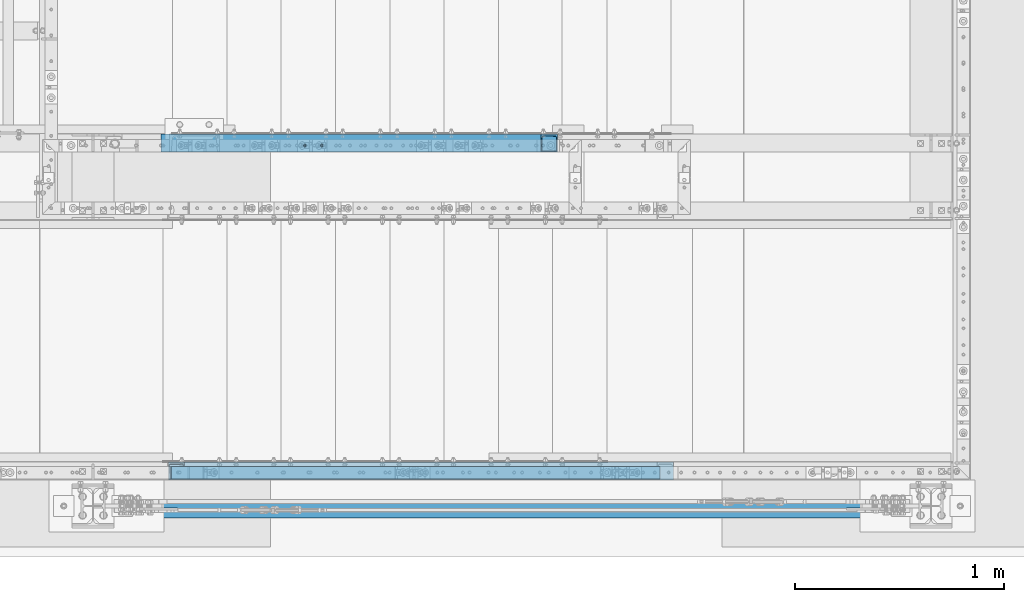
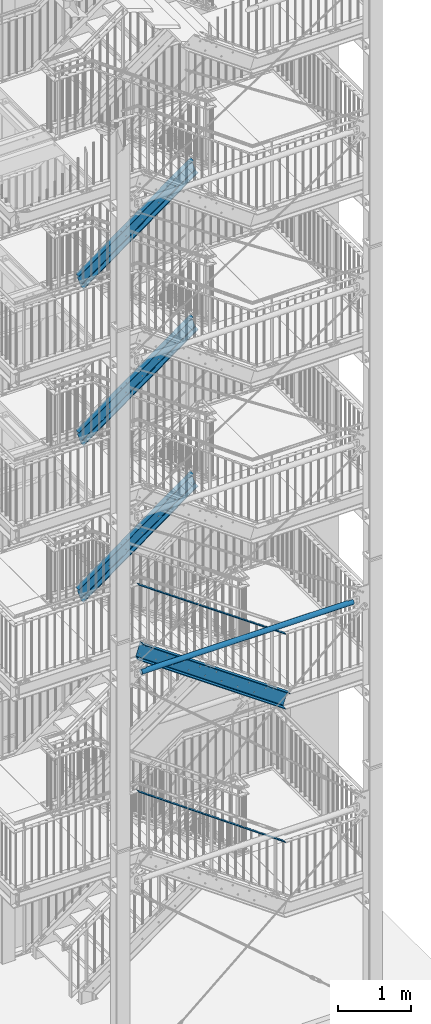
# One storey, part 119 of 825: 6 members, 1 beam, 66 openings.
"""IFC2X3 building model written with IfcOpenShell, lengths in millimetres."""

import ifcopenshell
import ifcopenshell.guid

model = None  # the IFC model being written
_history = None  # IfcOwnerHistory: only IFC2X3 demands one
_inside = {}  # id of a spatial element -> (the spatial element, [elements in it])
_under = {}  # id of a project, library or spatial element -> (it, [spatial elements below it])
_declared = {}  # id of a project -> (the project, [libraries it declares])
_typed = {}  # id of a type object -> (the type object, [elements of that type])
_made_of = {}  # id of a material, layer set ... -> (it, [elements and type objects made of it])


def new_model(schema):
    """Start an empty IFC model of exactly this schema.

    Asked for "IFC4X3", IfcOpenShell would pick the latest addendum, in which some entities
    have other attributes; the version numbers below select the first issue.
    IFC2X3 requires an IfcOwnerHistory on every rooted entity: one is made here for all.
    """
    global model, _history
    if schema == "IFC4X3":
        model = ifcopenshell.file(schema_version=(4, 3, 0, 0))
    else:
        model = ifcopenshell.file(schema=schema)
    _inside.clear()
    _under.clear()
    _declared.clear()
    _typed.clear()
    _made_of.clear()
    _history = None
    if model.schema == "IFC2X3":
        org = make("IfcOrganization", Name="unknown")
        user = make(
            "IfcPersonAndOrganization",
            ThePerson=make("IfcPerson", FamilyName="unknown"),
            TheOrganization=org,
        )
        app = make(
            "IfcApplication",
            ApplicationDeveloper=org,
            Version="unknown",
            ApplicationFullName="unknown",
            ApplicationIdentifier="unknown",
        )
        _history = make(
            "IfcOwnerHistory",
            OwningUser=user,
            OwningApplication=app,
            ChangeAction="ADDED",
            CreationDate=0,
        )
    return model


def make(cls, **values):
    """One entity of the class cls with the attributes given. An attribute that is None is left unset."""
    return model.create_entity(
        cls, **{name: value for name, value in values.items() if value is not None}
    )


def entity(cls, *values):
    """Any entity or typed value of the class cls, its attributes in the order of the schema. None: left unset."""
    e = model.create_entity(cls)
    for i, value in enumerate(values):
        if value is not None:
            e[i] = value
    return e


def rooted(cls, **values):
    """An entity with a GlobalId (a new one), such as an element, a storey or a relation."""
    return make(cls, GlobalId=ifcopenshell.guid.new(), OwnerHistory=_history, **values)


def si_unit(unit_type, name, prefix=None):
    """IfcSIUnit, for example si_unit("LENGTHUNIT", "METRE", prefix="MILLI")."""
    return make("IfcSIUnit", UnitType=unit_type, Prefix=prefix, Name=name)


def converted_unit(unit_type, name, factor, base, dimensions=None, offset=None):
    """IfcConversionBasedUnit, such as the inch: factor (a typed value) times the base unit."""
    return make(
        "IfcConversionBasedUnit"
        if offset is None
        else "IfcConversionBasedUnitWithOffset",
        ConversionOffset=offset,
        Dimensions=None
        if dimensions is None
        else entity("IfcDimensionalExponents", *dimensions),
        UnitType=unit_type,
        Name=name,
        ConversionFactor=make(
            "IfcMeasureWithUnit", ValueComponent=factor, UnitComponent=base
        ),
    )


def assignment(units):
    """IfcUnitAssignment: the units of a project."""
    return None if units is None else make("IfcUnitAssignment", Units=units)


def point(xyz):
    """IfcCartesianPoint."""
    return None if xyz is None else make("IfcCartesianPoint", Coordinates=xyz)


def direction(xyz):
    """IfcDirection."""
    return None if xyz is None else make("IfcDirection", DirectionRatios=xyz)


def frame(location, z_axis=None, x_axis=None):
    """IfcAxis2Placement3D, a coordinate frame: its origin and axes. An axis left out is left unset."""
    return make(
        "IfcAxis2Placement3D",
        Location=point(location),
        Axis=direction(z_axis),
        RefDirection=direction(x_axis),
    )


def frame_2d(location, x_axis=None):
    """IfcAxis2Placement2D, a coordinate frame in the plane: its origin and x axis."""
    return make(
        "IfcAxis2Placement2D", Location=point(location), RefDirection=direction(x_axis)
    )


def origin():
    """The frame at (0, 0, 0) with its axes left unset."""
    return frame((0.0, 0.0, 0.0))


def origin_with_axes():
    """The frame at (0, 0, 0) with the z axis (0, 0, 1) and the x axis (1, 0, 0) written out."""
    return frame((0.0, 0.0, 0.0), z_axis=(0.0, 0.0, 1.0), x_axis=(1.0, 0.0, 0.0))


def origin_2d():
    """The frame at (0, 0) in the plane with its x axis left unset."""
    return frame_2d((0.0, 0.0))


def origin_2d_with_axis():
    """The frame at (0, 0) in the plane with the x axis (1, 0) written out."""
    return frame_2d((0.0, 0.0), x_axis=(1.0, 0.0))


def place(relative_to, where):
    """IfcLocalPlacement: puts the frame where relative to a parent placement (None: the world)."""
    return make(
        "IfcLocalPlacement", PlacementRelTo=relative_to, RelativePlacement=where
    )


def context(
    kind, dimensions, precision=None, world=None, true_north=None, identifier=None
):
    """IfcGeometricRepresentationContext, for example the 3D "Model" context."""
    return make(
        "IfcGeometricRepresentationContext",
        ContextIdentifier=identifier,
        ContextType=kind,
        CoordinateSpaceDimension=dimensions,
        Precision=precision,
        WorldCoordinateSystem=world,
        TrueNorth=true_north,
    )


def project(units=None, contexts=None):
    """IfcProject with its units and contexts."""
    return rooted(
        "IfcProject",
        Name="project",
        RepresentationContexts=contexts,
        UnitsInContext=assignment(units),
    )


def spatial(cls, under=None, at=None, **own):
    """A site, building, storey or space (cls), placed at a placement, below another one or the project."""
    s = rooted(cls, ObjectPlacement=at, **own)
    if under is not None:
        _under.setdefault(under.id(), (under, []))[1].append(s)
    return s


def polyline(points):
    """IfcPolyline through the points."""
    return make("IfcPolyline", Points=[point(p) for p in points])


def profile(cls, at=None, kind="AREA", **sizes):
    """A parametric profile (cls). Its sizes go by their IFC names, for example OverallWidth=200.0."""
    return make(cls, ProfileType=kind, Position=at, **sizes)


def rectangle(**sizes):
    """IfcRectangleProfileDef."""
    return profile("IfcRectangleProfileDef", **sizes)


def circle(**sizes):
    """IfcCircleProfileDef."""
    return profile("IfcCircleProfileDef", **sizes)


def hollow_circle(**sizes):
    """IfcCircleHollowProfileDef."""
    return profile("IfcCircleHollowProfileDef", **sizes)


def u_section(**sizes):
    """IfcUShapeProfileDef."""
    return profile("IfcUShapeProfileDef", **sizes)


def outline(outer, holes=None, kind="AREA"):
    """IfcArbitraryClosedProfileDef: a profile drawn as a closed curve; with holes, ...WithVoids."""
    if holes is None:
        return make("IfcArbitraryClosedProfileDef", ProfileType=kind, OuterCurve=outer)
    return make(
        "IfcArbitraryProfileDefWithVoids",
        ProfileType=kind,
        OuterCurve=outer,
        InnerCurves=holes,
    )


def extrude(swept, where, along, depth):
    """IfcExtrudedAreaSolid: the profile swept, set in the frame where, extruded along a direction by depth."""
    return make(
        "IfcExtrudedAreaSolid",
        SweptArea=swept,
        Position=where,
        ExtrudedDirection=direction(along),
        Depth=depth,
    )


def clip(a, b, op="DIFFERENCE"):
    """IfcBooleanClippingResult: the solid a cut by the half space b."""
    return make(
        "IfcBooleanClippingResult", Operator=op, FirstOperand=a, SecondOperand=b
    )


def halfspace(plane, agree):
    """IfcHalfSpaceSolid: all space on one side of the plane z = 0 of the frame plane."""
    return make(
        "IfcHalfSpaceSolid",
        BaseSurface=make("IfcPlane", Position=plane),
        AgreementFlag=agree,
    )


def shape(context_of_items, identifier, shape_type, items):
    """IfcShapeRepresentation: the items that make up one representation, for example the "Body"."""
    return make(
        "IfcShapeRepresentation",
        ContextOfItems=context_of_items,
        RepresentationIdentifier=identifier,
        RepresentationType=shape_type,
        Items=items,
    )


def material(Name=None, Category=None):
    """IfcMaterial."""
    return make("IfcMaterial", Name=Name, Category=Category)


def made_of(thing, what):
    """Note that an element or type object is made of a material, layer set ...; save() writes the relation."""
    if what is not None:
        _made_of.setdefault(what.id(), (what, []))[1].append(thing)
    return thing


def element(
    cls,
    number,
    at=None,
    inside=None,
    cuts=None,
    type_object=None,
    material=None,
    context=None,
    identifier="Body",
    shape_type=None,
    held_by="IfcProductDefinitionShape",
    body=None,
    shapes=None,
    **own,
):
    """One element of the class cls, such as IfcWall. Its Tag is "e" and its number.

    at: its placement. inside: the storey or other place that contains it. cuts: it is an
    opening in that element (IfcRelVoidsElement). A single representation is given by context,
    identifier, shape_type and body (its items); several are given by shapes. held_by: the class
    of the entity that holds the representations. save() writes the other relations.
    """
    e = rooted(cls, Tag="e%d" % number, ObjectPlacement=at, **own)
    if body is not None:
        shapes = [shape(context, identifier, shape_type, body)]
    if shapes is not None:
        e.Representation = make(held_by, Representations=shapes)
    if inside is not None:
        _inside.setdefault(inside.id(), (inside, []))[1].append(e)
    if cuts is not None:
        rooted(
            "IfcRelVoidsElement", RelatingBuildingElement=cuts, RelatedOpeningElement=e
        )
    if type_object is not None:
        _typed.setdefault(type_object.id(), (type_object, []))[1].append(e)
    return made_of(e, material)


def aggregate(whole, parts):
    """IfcRelAggregates: a whole, such as a stair, and the parts it consists of."""
    return rooted("IfcRelAggregates", RelatingObject=whole, RelatedObjects=parts)


def save(model, path):
    """Write the relations noted so far, then the file.

    IfcRelAggregates (storeys below a building ...), IfcRelContainedInSpatialStructure (elements
    in a storey), IfcRelDefinesByType, IfcRelAssociatesMaterial and IfcRelDeclares: one each for
    every whole, place, type object, material and project.
    """
    for whole, parts in _under.values():
        aggregate(whole, parts)
    for where, things in _inside.values():
        rooted(
            "IfcRelContainedInSpatialStructure",
            RelatedElements=things,
            RelatingStructure=where,
        )
    for kind, things in _typed.values():
        rooted("IfcRelDefinesByType", RelatedObjects=things, RelatingType=kind)
    for what, things in _made_of.values():
        rooted("IfcRelAssociatesMaterial", RelatedObjects=things, RelatingMaterial=what)
    for by, libraries in _declared.values():
        rooted("IfcRelDeclares", RelatingContext=by, RelatedDefinitions=libraries)
    model.write(path)


model = new_model("IFC2X3")

# Units and contexts
model_context = context("Model", 3, precision=1e-09, world=origin_with_axes())
ifc_project = project(units=[si_unit("LENGTHUNIT", "METRE", prefix="MILLI"), si_unit("AREAUNIT", "SQUARE_METRE"), si_unit("VOLUMEUNIT", "CUBIC_METRE"), converted_unit("PLANEANGLEUNIT", "DEGREE", entity("IfcPlaneAngleMeasure", 0.01745329), si_unit("PLANEANGLEUNIT", "RADIAN"), dimensions=[0, 0, 0, 0, 0, 0, 0])], contexts=[model_context])

# Site, building, storey
site_placement = place(None, origin_with_axes())
site = spatial("IfcSite", under=ifc_project, at=site_placement, Name="Cnopf'sche Kinderklinik", CompositionType="ELEMENT")
building_placement = place(site_placement, origin_with_axes())
building = spatial("IfcBuilding", under=site, at=building_placement, Name="Struktur 1", CompositionType="ELEMENT")
storey_placement = place(building_placement, origin_with_axes())
storey = spatial("IfcBuildingStorey", under=building, at=storey_placement, Name="Default Storey", CompositionType="ELEMENT", Elevation=0.0)

# Member, openings
ifc_material = material(Name="S235JR")
member_1_placement = place(None, frame((5040.769761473, 6124.436971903, 9702.599256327), z_axis=(-0.810878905, 0.0, -0.585213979), x_axis=(0.0, -1.0, 0.0)))
member_1 = element("IfcMember", 1, at=member_1_placement, inside=storey, material=ifc_material, Name="Stringer#2", ObjectType="Stringer#2", context=model_context, shape_type="Clipping", body=[
    clip(clip(extrude(u_section(Depth=240.0, FlangeWidth=85.0, WebThickness=9.5, FlangeThickness=13.0, FilletRadius=13.0, EdgeRadius=6.5, FlangeSlope=4.574, at=frame_2d((20.2, 0.0))), origin(), (0.0, 0.0, -1.0), 2764.271887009), halfspace(frame((6124.436971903, -8031.601758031, 129.944247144), z_axis=(0.0, 0.307506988, 0.951545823), x_axis=(1.0, 0.0, 0.0)), True)), halfspace(frame((6124.436971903, -7374.852372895, 2162.18142843), z_axis=(0.0, -0.307506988, -0.951545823), x_axis=(-1.0, 0.0, 0.0)), True)),
])
opening_1_placement = place(member_1_placement, frame((-22.8, -50.419344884, -791.0398607), z_axis=(1.0, 0.0, 0.0), x_axis=(0.0, -0.585213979, -0.810878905)))
element("IfcOpeningElement", 2, at=opening_1_placement, cuts=member_1, ObjectType="Opening", context=model_context, shape_type="SweptSolid", body=[
    extrude(circle(Radius=7.001, at=origin_2d_with_axis()), origin(), (0.0, 0.0, 1.0), 10.5),
])
opening_2_placement = place(member_1_placement, frame((-22.8, -50.419345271, -2394.23855254), z_axis=(1.0, 0.0, 0.0), x_axis=(0.0, -0.585213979, -0.810878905)))
element("IfcOpeningElement", 3, at=opening_2_placement, cuts=member_1, ObjectType="Opening", context=model_context, shape_type="SweptSolid", body=[
    extrude(circle(Radius=7.001, at=origin_2d_with_axis()), origin(), (0.0, 0.0, 1.0), 10.5),
])
opening_3_placement = place(member_1_placement, frame((-22.8, 54.919171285, -965.721396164), z_axis=(1.0, 0.0, 0.0), x_axis=(0.0, -0.585213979, -0.810878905)))
element("IfcOpeningElement", 4, at=opening_3_placement, cuts=member_1, ObjectType="Opening", context=model_context, shape_type="SweptSolid", body=[
    extrude(circle(Radius=7.001, at=origin_2d_with_axis()), origin(), (0.0, 0.0, 1.0), 10.5),
])
opening_4_placement = place(member_1_placement, frame((-22.8, -50.419345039, -1432.319337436), z_axis=(1.0, 0.0, 0.0), x_axis=(0.0, -0.585213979, -0.810878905)))
element("IfcOpeningElement", 5, at=opening_4_placement, cuts=member_1, ObjectType="Opening", context=model_context, shape_type="SweptSolid", body=[
    extrude(circle(Radius=7.001, at=origin_2d_with_axis()), origin(), (0.0, 0.0, 1.0), 10.5),
])
opening_5_placement = place(member_1_placement, frame((-22.8, 54.919170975, -2248.280349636), z_axis=(1.0, 0.0, 0.0), x_axis=(0.0, -0.585213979, -0.810878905)))
element("IfcOpeningElement", 6, at=opening_5_placement, cuts=member_1, ObjectType="Opening", context=model_context, shape_type="SweptSolid", body=[
    extrude(circle(Radius=7.001, at=origin_2d_with_axis()), origin(), (0.0, 0.0, 1.0), 10.5),
])
opening_6_placement = place(member_1_placement, frame((-22.8, -50.419345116, -1752.959075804), z_axis=(1.0, 0.0, 0.0), x_axis=(0.0, -0.585213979, -0.810878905)))
element("IfcOpeningElement", 7, at=opening_6_placement, cuts=member_1, ObjectType="Opening", context=model_context, shape_type="SweptSolid", body=[
    extrude(circle(Radius=7.001, at=origin_2d_with_axis()), origin(), (0.0, 0.0, 1.0), 10.5),
])
opening_7_placement = place(member_1_placement, frame((-22.8, 54.919171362, -645.081657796), z_axis=(1.0, 0.0, 0.0), x_axis=(0.0, -0.585213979, -0.810878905)))
element("IfcOpeningElement", 8, at=opening_7_placement, cuts=member_1, ObjectType="Opening", context=model_context, shape_type="SweptSolid", body=[
    extrude(circle(Radius=7.001, at=origin_2d_with_axis()), origin(), (0.0, 0.0, 1.0), 10.5),
])
opening_8_placement = place(member_1_placement, frame((-22.8, -50.419345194, -2073.598814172), z_axis=(1.0, 0.0, 0.0), x_axis=(0.0, -0.585213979, -0.810878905)))
element("IfcOpeningElement", 9, at=opening_8_placement, cuts=member_1, ObjectType="Opening", context=model_context, shape_type="SweptSolid", body=[
    extrude(circle(Radius=7.001, at=origin_2d_with_axis()), origin(), (0.0, 0.0, 1.0), 10.5),
])
opening_9_placement = place(member_1_placement, frame((-22.8, 54.919171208, -1286.361134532), z_axis=(1.0, 0.0, 0.0), x_axis=(0.0, -0.585213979, -0.810878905)))
element("IfcOpeningElement", 10, at=opening_9_placement, cuts=member_1, ObjectType="Opening", context=model_context, shape_type="SweptSolid", body=[
    extrude(circle(Radius=7.001, at=origin_2d_with_axis()), origin(), (0.0, 0.0, 1.0), 10.5),
])
opening_10_placement = place(member_1_placement, frame((-22.8, 54.919171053, -1927.640611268), z_axis=(1.0, 0.0, 0.0), x_axis=(0.0, -0.585213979, -0.810878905)))
element("IfcOpeningElement", 11, at=opening_10_placement, cuts=member_1, ObjectType="Opening", context=model_context, shape_type="SweptSolid", body=[
    extrude(circle(Radius=7.001, at=origin_2d_with_axis()), origin(), (0.0, 0.0, 1.0), 10.5),
])
opening_11_placement = place(member_1_placement, frame((-22.8, 54.91917113, -1607.0008729), z_axis=(1.0, 0.0, 0.0), x_axis=(0.0, -0.585213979, -0.810878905)))
element("IfcOpeningElement", 12, at=opening_11_placement, cuts=member_1, ObjectType="Opening", context=model_context, shape_type="SweptSolid", body=[
    extrude(circle(Radius=7.001, at=origin_2d_with_axis()), origin(), (0.0, 0.0, 1.0), 10.5),
])
opening_12_placement = place(member_1_placement, frame((-22.8, -50.419344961, -1111.679599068), z_axis=(1.0, 0.0, 0.0), x_axis=(0.0, -0.585213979, -0.810878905)))
element("IfcOpeningElement", 13, at=opening_12_placement, cuts=member_1, ObjectType="Opening", context=model_context, shape_type="SweptSolid", body=[
    extrude(circle(Radius=7.001, at=origin_2d_with_axis()), origin(), (0.0, 0.0, 1.0), 10.5),
])
opening_13_placement = place(member_1_placement, frame((32.7, 120.5, -1202.687748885), z_axis=(0.0, 1.0, 0.0), x_axis=(-1.0, 0.0, 0.0)))
element("IfcOpeningElement", 14, at=opening_13_placement, cuts=member_1, ObjectType="Opening", context=model_context, shape_type="SweptSolid", body=[
    extrude(circle(Radius=7.001, at=frame_2d((0.0, -7.001), x_axis=(1.0, 0.0))), origin(), (0.0, 0.0, -1.0), 14.0),
])
opening_14_placement = place(member_1_placement, frame((32.7, 120.5, -1102.687748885), z_axis=(0.0, 1.0, 0.0), x_axis=(-1.0, 0.0, 0.0)))
element("IfcOpeningElement", 15, at=opening_14_placement, cuts=member_1, ObjectType="Opening", context=model_context, shape_type="SweptSolid", body=[
    extrude(circle(Radius=7.001, at=frame_2d((0.0, -7.001), x_axis=(1.0, 0.0))), origin(), (0.0, 0.0, -1.0), 14.0),
])

member_2_placement = place(None, frame((5041.069476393, 6124.436971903, 7070.450295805), z_axis=(-0.810350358, 0.0, -0.585945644), x_axis=(0.0, -1.0, 0.0)))
member_2 = element("IfcMember", 16, at=member_2_placement, inside=storey, material=ifc_material, Name="Stringer#2", ObjectType="Stringer#2", context=model_context, shape_type="Clipping", body=[
    clip(clip(extrude(u_section(Depth=240.0, FlangeWidth=85.0, WebThickness=9.5, FlangeThickness=13.0, FilletRadius=13.0, EdgeRadius=6.5, FlangeSlope=4.574, at=frame_2d((20.2, 0.0))), origin(), (0.0, 0.0, -1.0), 2765.811710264), halfspace(frame((6124.436971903, -5645.874307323, -639.66863089), z_axis=(0.0, 0.307936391, 0.951406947), x_axis=(1.0, 0.0, 0.0)), True)), halfspace(frame((6124.436971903, -4987.874923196, 1393.300525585), z_axis=(0.0, -0.307936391, -0.951406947), x_axis=(-1.0, 0.0, 0.0)), True)),
])
opening_15_placement = place(member_2_placement, frame((-22.8, -50.547583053, -791.047704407), z_axis=(1.0, 0.0, 0.0), x_axis=(0.0, -0.585945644, -0.810350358)))
element("IfcOpeningElement", 17, at=opening_15_placement, cuts=member_2, ObjectType="Opening", context=model_context, shape_type="SweptSolid", body=[
    extrude(circle(Radius=7.001, at=origin_2d_with_axis()), origin(), (0.0, 0.0, 1.0), 10.5),
])
opening_16_placement = place(member_2_placement, frame((-22.8, -50.547583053, -1432.745452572), z_axis=(1.0, 0.0, 0.0), x_axis=(0.0, -0.585945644, -0.810350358)))
element("IfcOpeningElement", 18, at=opening_16_placement, cuts=member_2, ObjectType="Opening", context=model_context, shape_type="SweptSolid", body=[
    extrude(circle(Radius=7.001, at=origin_2d_with_axis()), origin(), (0.0, 0.0, 1.0), 10.5),
])
opening_17_placement = place(member_2_placement, frame((-22.8, 54.922632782, -966.033514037), z_axis=(1.0, 0.0, 0.0), x_axis=(0.0, -0.585945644, -0.810350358)))
element("IfcOpeningElement", 19, at=opening_17_placement, cuts=member_2, ObjectType="Opening", context=model_context, shape_type="SweptSolid", body=[
    extrude(circle(Radius=7.001, at=origin_2d_with_axis()), origin(), (0.0, 0.0, 1.0), 10.5),
])
opening_18_placement = place(member_2_placement, frame((-22.8, 54.922632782, -1607.731262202), z_axis=(1.0, 0.0, 0.0), x_axis=(0.0, -0.585945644, -0.810350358)))
element("IfcOpeningElement", 20, at=opening_18_placement, cuts=member_2, ObjectType="Opening", context=model_context, shape_type="SweptSolid", body=[
    extrude(circle(Radius=7.001, at=origin_2d_with_axis()), origin(), (0.0, 0.0, 1.0), 10.5),
])
opening_19_placement = place(member_2_placement, frame((-22.8, 54.922632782, -1928.580136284), z_axis=(1.0, 0.0, 0.0), x_axis=(0.0, -0.585945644, -0.810350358)))
element("IfcOpeningElement", 21, at=opening_19_placement, cuts=member_2, ObjectType="Opening", context=model_context, shape_type="SweptSolid", body=[
    extrude(circle(Radius=7.001, at=origin_2d_with_axis()), origin(), (0.0, 0.0, 1.0), 10.5),
])
opening_20_placement = place(member_2_placement, frame((-22.8, -50.547583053, -2395.29207482), z_axis=(1.0, 0.0, 0.0), x_axis=(0.0, -0.585945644, -0.810350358)))
element("IfcOpeningElement", 22, at=opening_20_placement, cuts=member_2, ObjectType="Opening", context=model_context, shape_type="SweptSolid", body=[
    extrude(circle(Radius=7.001, at=origin_2d_with_axis()), origin(), (0.0, 0.0, 1.0), 10.5),
])
opening_21_placement = place(member_2_placement, frame((-22.8, 54.922632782, -645.184639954), z_axis=(1.0, 0.0, 0.0), x_axis=(0.0, -0.585945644, -0.810350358)))
element("IfcOpeningElement", 23, at=opening_21_placement, cuts=member_2, ObjectType="Opening", context=model_context, shape_type="SweptSolid", body=[
    extrude(circle(Radius=7.001, at=origin_2d_with_axis()), origin(), (0.0, 0.0, 1.0), 10.5),
])
opening_22_placement = place(member_2_placement, frame((-22.8, 54.922632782, -1286.882388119), z_axis=(1.0, 0.0, 0.0), x_axis=(0.0, -0.585945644, -0.810350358)))
element("IfcOpeningElement", 24, at=opening_22_placement, cuts=member_2, ObjectType="Opening", context=model_context, shape_type="SweptSolid", body=[
    extrude(circle(Radius=7.001, at=origin_2d_with_axis()), origin(), (0.0, 0.0, 1.0), 10.5),
])
opening_23_placement = place(member_2_placement, frame((-22.8, -50.547583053, -2074.443200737), z_axis=(1.0, 0.0, 0.0), x_axis=(0.0, -0.585945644, -0.810350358)))
element("IfcOpeningElement", 25, at=opening_23_placement, cuts=member_2, ObjectType="Opening", context=model_context, shape_type="SweptSolid", body=[
    extrude(circle(Radius=7.001, at=origin_2d_with_axis()), origin(), (0.0, 0.0, 1.0), 10.5),
])
opening_24_placement = place(member_2_placement, frame((-22.8, -50.547583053, -1111.89657849), z_axis=(1.0, 0.0, 0.0), x_axis=(0.0, -0.585945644, -0.810350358)))
element("IfcOpeningElement", 26, at=opening_24_placement, cuts=member_2, ObjectType="Opening", context=model_context, shape_type="SweptSolid", body=[
    extrude(circle(Radius=7.001, at=origin_2d_with_axis()), origin(), (0.0, 0.0, 1.0), 10.5),
])
opening_25_placement = place(member_2_placement, frame((-22.8, -50.547583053, -1753.594326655), z_axis=(1.0, 0.0, 0.0), x_axis=(0.0, -0.585945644, -0.810350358)))
element("IfcOpeningElement", 27, at=opening_25_placement, cuts=member_2, ObjectType="Opening", context=model_context, shape_type="SweptSolid", body=[
    extrude(circle(Radius=7.001, at=origin_2d_with_axis()), origin(), (0.0, 0.0, 1.0), 10.5),
])
opening_26_placement = place(member_2_placement, frame((-22.8, 54.922632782, -2249.429010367), z_axis=(1.0, 0.0, 0.0), x_axis=(0.0, -0.585945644, -0.810350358)))
element("IfcOpeningElement", 28, at=opening_26_placement, cuts=member_2, ObjectType="Opening", context=model_context, shape_type="SweptSolid", body=[
    extrude(circle(Radius=7.001, at=origin_2d_with_axis()), origin(), (0.0, 0.0, 1.0), 10.5),
])
opening_27_placement = place(member_2_placement, frame((32.7, 120.5, -1203.179263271), z_axis=(0.0, 1.0, 0.0), x_axis=(-1.0, 0.0, 0.0)))
element("IfcOpeningElement", 29, at=opening_27_placement, cuts=member_2, ObjectType="Opening", context=model_context, shape_type="SweptSolid", body=[
    extrude(circle(Radius=7.001, at=frame_2d((0.0, -7.001), x_axis=(1.0, 0.0))), origin(), (0.0, 0.0, -1.0), 14.0),
])
opening_28_placement = place(member_2_placement, frame((32.7, 120.5, -1103.179263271), z_axis=(0.0, 1.0, 0.0), x_axis=(-1.0, 0.0, 0.0)))
element("IfcOpeningElement", 30, at=opening_28_placement, cuts=member_2, ObjectType="Opening", context=model_context, shape_type="SweptSolid", body=[
    extrude(circle(Radius=7.001, at=frame_2d((0.0, -7.001), x_axis=(1.0, 0.0))), origin(), (0.0, 0.0, -1.0), 14.0),
])

member_3_placement = place(None, frame((5041.249041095, 6124.436971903, 12329.361065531), z_axis=(-0.810033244, 0.0, -0.586383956), x_axis=(0.0, -1.0, 0.0)))
member_3 = element("IfcMember", 31, at=member_3_placement, inside=storey, material=ifc_material, Name="Stringer#2", ObjectType="Stringer#2", context=model_context, shape_type="Clipping", body=[
    clip(clip(extrude(u_section(Depth=240.0, FlangeWidth=85.0, WebThickness=9.5, FlangeThickness=13.0, FilletRadius=13.0, EdgeRadius=6.5, FlangeSlope=4.574, at=frame_2d((20.2, 0.0))), origin(), (0.0, 0.0, -1.0), 2766.736495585), halfspace(frame((6124.436971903, -10403.792085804, 902.542281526), z_axis=(0.0, 0.308193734, 0.951323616), x_axis=(1.0, 0.0, 0.0)), True)), halfspace(frame((6124.436971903, -9745.042702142, 2935.951061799), z_axis=(0.0, -0.308193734, -0.951323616), x_axis=(-1.0, 0.0, 0.0)), True)),
])
opening_29_placement = place(member_3_placement, frame((-22.8, 54.924733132, -2250.119186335), z_axis=(1.0, 0.0, 0.0), x_axis=(0.0, -0.586383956, -0.810033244)))
element("IfcOpeningElement", 32, at=opening_29_placement, cuts=member_3, ObjectType="Opening", context=model_context, shape_type="SweptSolid", body=[
    extrude(circle(Radius=7.001, at=origin_2d_with_axis()), origin(), (0.0, 0.0, 1.0), 10.5),
])
opening_30_placement = place(member_3_placement, frame((-22.8, -50.624378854, -2074.950689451), z_axis=(1.0, 0.0, 0.0), x_axis=(0.0, -0.586383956, -0.810033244)))
element("IfcOpeningElement", 33, at=opening_30_placement, cuts=member_3, ObjectType="Opening", context=model_context, shape_type="SweptSolid", body=[
    extrude(circle(Radius=7.001, at=origin_2d_with_axis()), origin(), (0.0, 0.0, 1.0), 10.5),
])
opening_31_placement = place(member_3_placement, frame((-22.8, 54.924733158, -1929.144705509), z_axis=(1.0, 0.0, 0.0), x_axis=(0.0, -0.586383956, -0.810033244)))
element("IfcOpeningElement", 34, at=opening_31_placement, cuts=member_3, ObjectType="Opening", context=model_context, shape_type="SweptSolid", body=[
    extrude(circle(Radius=7.001, at=origin_2d_with_axis()), origin(), (0.0, 0.0, 1.0), 10.5),
])
opening_32_placement = place(member_3_placement, frame((-22.8, -50.62437875, -791.052766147), z_axis=(1.0, 0.0, 0.0), x_axis=(0.0, -0.586383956, -0.810033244)))
element("IfcOpeningElement", 35, at=opening_32_placement, cuts=member_3, ObjectType="Opening", context=model_context, shape_type="SweptSolid", body=[
    extrude(circle(Radius=7.001, at=origin_2d_with_axis()), origin(), (0.0, 0.0, 1.0), 10.5),
])
opening_33_placement = place(member_3_placement, frame((-22.8, -50.624378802, -1433.001727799), z_axis=(1.0, 0.0, 0.0), x_axis=(0.0, -0.586383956, -0.810033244)))
element("IfcOpeningElement", 36, at=opening_33_placement, cuts=member_3, ObjectType="Opening", context=model_context, shape_type="SweptSolid", body=[
    extrude(circle(Radius=7.001, at=origin_2d_with_axis()), origin(), (0.0, 0.0, 1.0), 10.5),
])
opening_34_placement = place(member_3_placement, frame((-22.8, -50.62437888, -2395.925170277), z_axis=(1.0, 0.0, 0.0), x_axis=(0.0, -0.586383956, -0.810033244)))
element("IfcOpeningElement", 37, at=opening_34_placement, cuts=member_3, ObjectType="Opening", context=model_context, shape_type="SweptSolid", body=[
    extrude(circle(Radius=7.001, at=origin_2d_with_axis()), origin(), (0.0, 0.0, 1.0), 10.5),
])
opening_35_placement = place(member_3_placement, frame((-22.8, 54.92473321, -1287.195743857), z_axis=(1.0, 0.0, 0.0), x_axis=(0.0, -0.586383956, -0.810033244)))
element("IfcOpeningElement", 38, at=opening_35_placement, cuts=member_3, ObjectType="Opening", context=model_context, shape_type="SweptSolid", body=[
    extrude(circle(Radius=7.001, at=origin_2d_with_axis()), origin(), (0.0, 0.0, 1.0), 10.5),
])
opening_36_placement = place(member_3_placement, frame((-22.8, 54.924733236, -966.221263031), z_axis=(1.0, 0.0, 0.0), x_axis=(0.0, -0.586383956, -0.810033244)))
element("IfcOpeningElement", 39, at=opening_36_placement, cuts=member_3, ObjectType="Opening", context=model_context, shape_type="SweptSolid", body=[
    extrude(circle(Radius=7.001, at=origin_2d_with_axis()), origin(), (0.0, 0.0, 1.0), 10.5),
])
opening_37_placement = place(member_3_placement, frame((-22.8, 54.924733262, -645.246782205), z_axis=(1.0, 0.0, 0.0), x_axis=(0.0, -0.586383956, -0.810033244)))
element("IfcOpeningElement", 40, at=opening_37_placement, cuts=member_3, ObjectType="Opening", context=model_context, shape_type="SweptSolid", body=[
    extrude(circle(Radius=7.001, at=origin_2d_with_axis()), origin(), (0.0, 0.0, 1.0), 10.5),
])
opening_38_placement = place(member_3_placement, frame((-22.8, 54.924733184, -1608.170224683), z_axis=(1.0, 0.0, 0.0), x_axis=(0.0, -0.586383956, -0.810033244)))
element("IfcOpeningElement", 41, at=opening_38_placement, cuts=member_3, ObjectType="Opening", context=model_context, shape_type="SweptSolid", body=[
    extrude(circle(Radius=7.001, at=origin_2d_with_axis()), origin(), (0.0, 0.0, 1.0), 10.5),
])
opening_39_placement = place(member_3_placement, frame((-22.8, -50.624378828, -1753.976208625), z_axis=(1.0, 0.0, 0.0), x_axis=(0.0, -0.586383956, -0.810033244)))
element("IfcOpeningElement", 42, at=opening_39_placement, cuts=member_3, ObjectType="Opening", context=model_context, shape_type="SweptSolid", body=[
    extrude(circle(Radius=7.001, at=origin_2d_with_axis()), origin(), (0.0, 0.0, 1.0), 10.5),
])
opening_40_placement = place(member_3_placement, frame((-22.8, -50.624378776, -1112.027246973), z_axis=(1.0, 0.0, 0.0), x_axis=(0.0, -0.586383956, -0.810033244)))
element("IfcOpeningElement", 43, at=opening_40_placement, cuts=member_3, ObjectType="Opening", context=model_context, shape_type="SweptSolid", body=[
    extrude(circle(Radius=7.001, at=origin_2d_with_axis()), origin(), (0.0, 0.0, 1.0), 10.5),
])
opening_41_placement = place(member_3_placement, frame((32.7, 120.5, -1203.47468402), z_axis=(0.0, 1.0, 0.0), x_axis=(-1.0, 0.0, 0.0)))
element("IfcOpeningElement", 44, at=opening_41_placement, cuts=member_3, ObjectType="Opening", context=model_context, shape_type="SweptSolid", body=[
    extrude(circle(Radius=7.001, at=frame_2d((0.0, -7.001), x_axis=(1.0, 0.0))), origin(), (0.0, 0.0, -1.0), 14.0),
])
opening_42_placement = place(member_3_placement, frame((32.7, 120.5, -1103.47468402), z_axis=(0.0, 1.0, 0.0), x_axis=(-1.0, 0.0, 0.0)))
element("IfcOpeningElement", 45, at=opening_42_placement, cuts=member_3, ObjectType="Opening", context=model_context, shape_type="SweptSolid", body=[
    extrude(circle(Radius=7.001, at=frame_2d((0.0, -7.001), x_axis=(1.0, 0.0))), origin(), (0.0, 0.0, -1.0), 14.0),
])

member_4_placement = place(None, frame((7776.785634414, 4554.436971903, 5427.548742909), z_axis=(-0.818063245, 0.0, 0.57512827), x_axis=(0.0, -1.0, 0.0)))
member_4 = element("IfcMember", 46, at=member_4_placement, inside=storey, material=ifc_material, Name="Stringer#1", ObjectType="Stringer#1", context=model_context, shape_type="Clipping", body=[
    clip(clip(extrude(u_section(Depth=240.0, FlangeWidth=85.0, WebThickness=9.5, FlangeThickness=13.0, FilletRadius=13.0, EdgeRadius=6.5, FlangeSlope=4.574, at=frame_2d((20.2, 0.0))), origin(), (0.0, 0.0, 1.0), 3379.180219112), halfspace(frame((4554.436971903, -7233.811372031, -2066.929465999), z_axis=(0.0, -0.301609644, 0.953431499), x_axis=(1.0, 0.0, 0.0)), True)), halfspace(frame((4554.436971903, -8056.363400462, 533.275895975), z_axis=(0.0, 0.301609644, -0.953431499), x_axis=(-1.0, 0.0, 0.0)), True)),
])
opening_43_placement = place(member_4_placement, frame((-22.8, 54.877032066, 1597.228051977), z_axis=(1.0, 0.0, 0.0), x_axis=(0.0, -0.57512827, 0.818063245)))
element("IfcOpeningElement", 47, at=opening_43_placement, cuts=member_4, ObjectType="Opening", context=model_context, shape_type="SweptSolid", body=[
    extrude(circle(Radius=7.001, at=origin_2d_with_axis()), origin(), (0.0, 0.0, 1.0), 10.5),
])
opening_44_placement = place(member_4_placement, frame((-22.8, -48.646056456, 1426.655598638), z_axis=(1.0, 0.0, 0.0), x_axis=(0.0, -0.57512827, 0.818063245)))
element("IfcOpeningElement", 48, at=opening_44_placement, cuts=member_4, ObjectType="Opening", context=model_context, shape_type="SweptSolid", body=[
    extrude(circle(Radius=7.001, at=origin_2d_with_axis()), origin(), (0.0, 0.0, 1.0), 10.5),
])
opening_45_placement = place(member_4_placement, frame((-22.8, -48.646056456, 3015.774786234), z_axis=(1.0, 0.0, 0.0), x_axis=(0.0, -0.57512827, 0.818063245)))
element("IfcOpeningElement", 49, at=opening_45_placement, cuts=member_4, ObjectType="Opening", context=model_context, shape_type="SweptSolid", body=[
    extrude(circle(Radius=7.001, at=origin_2d_with_axis()), origin(), (0.0, 0.0, 1.0), 10.5),
])
opening_46_placement = place(member_4_placement, frame((-22.8, 54.877032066, 2868.523402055), z_axis=(1.0, 0.0, 0.0), x_axis=(0.0, -0.57512827, 0.818063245)))
element("IfcOpeningElement", 50, at=opening_46_placement, cuts=member_4, ObjectType="Opening", context=model_context, shape_type="SweptSolid", body=[
    extrude(circle(Radius=7.001, at=origin_2d_with_axis()), origin(), (0.0, 0.0, 1.0), 10.5),
])
opening_47_placement = place(member_4_placement, frame((-22.8, -48.646056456, 2062.303273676), z_axis=(1.0, 0.0, 0.0), x_axis=(0.0, -0.57512827, 0.818063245)))
element("IfcOpeningElement", 51, at=opening_47_placement, cuts=member_4, ObjectType="Opening", context=model_context, shape_type="SweptSolid", body=[
    extrude(circle(Radius=7.001, at=origin_2d_with_axis()), origin(), (0.0, 0.0, 1.0), 10.5),
])
opening_48_placement = place(member_4_placement, frame((-22.8, 54.877032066, 961.580376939), z_axis=(1.0, 0.0, 0.0), x_axis=(0.0, -0.57512827, 0.818063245)))
element("IfcOpeningElement", 52, at=opening_48_placement, cuts=member_4, ObjectType="Opening", context=model_context, shape_type="SweptSolid", body=[
    extrude(circle(Radius=7.001, at=origin_2d_with_axis()), origin(), (0.0, 0.0, 1.0), 10.5),
])
opening_49_placement = place(member_4_placement, frame((-22.8, -48.646056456, 1744.479436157), z_axis=(1.0, 0.0, 0.0), x_axis=(0.0, -0.57512827, 0.818063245)))
element("IfcOpeningElement", 53, at=opening_49_placement, cuts=member_4, ObjectType="Opening", context=model_context, shape_type="SweptSolid", body=[
    extrude(circle(Radius=7.001, at=origin_2d_with_axis()), origin(), (0.0, 0.0, 1.0), 10.5),
])
opening_50_placement = place(member_4_placement, frame((-22.8, 54.877032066, 2550.699564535), z_axis=(1.0, 0.0, 0.0), x_axis=(0.0, -0.57512827, 0.818063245)))
element("IfcOpeningElement", 54, at=opening_50_placement, cuts=member_4, ObjectType="Opening", context=model_context, shape_type="SweptSolid", body=[
    extrude(circle(Radius=7.001, at=origin_2d_with_axis()), origin(), (0.0, 0.0, 1.0), 10.5),
])
opening_51_placement = place(member_4_placement, frame((-22.8, -48.646056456, 791.007923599), z_axis=(1.0, 0.0, 0.0), x_axis=(0.0, -0.57512827, 0.818063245)))
element("IfcOpeningElement", 55, at=opening_51_placement, cuts=member_4, ObjectType="Opening", context=model_context, shape_type="SweptSolid", body=[
    extrude(circle(Radius=7.001, at=origin_2d_with_axis()), origin(), (0.0, 0.0, 1.0), 10.5),
])
opening_52_placement = place(member_4_placement, frame((-22.8, 54.877032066, 1915.051889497), z_axis=(1.0, 0.0, 0.0), x_axis=(0.0, -0.57512827, 0.818063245)))
element("IfcOpeningElement", 56, at=opening_52_placement, cuts=member_4, ObjectType="Opening", context=model_context, shape_type="SweptSolid", body=[
    extrude(circle(Radius=7.001, at=origin_2d_with_axis()), origin(), (0.0, 0.0, 1.0), 10.5),
])
opening_53_placement = place(member_4_placement, frame((-22.8, -48.646056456, 1108.831761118), z_axis=(1.0, 0.0, 0.0), x_axis=(0.0, -0.57512827, 0.818063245)))
element("IfcOpeningElement", 57, at=opening_53_placement, cuts=member_4, ObjectType="Opening", context=model_context, shape_type="SweptSolid", body=[
    extrude(circle(Radius=7.001, at=origin_2d_with_axis()), origin(), (0.0, 0.0, 1.0), 10.5),
])
opening_54_placement = place(member_4_placement, frame((-22.8, 54.877032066, 643.756539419), z_axis=(1.0, 0.0, 0.0), x_axis=(0.0, -0.57512827, 0.818063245)))
element("IfcOpeningElement", 58, at=opening_54_placement, cuts=member_4, ObjectType="Opening", context=model_context, shape_type="SweptSolid", body=[
    extrude(circle(Radius=7.001, at=origin_2d_with_axis()), origin(), (0.0, 0.0, 1.0), 10.5),
])
opening_55_placement = place(member_4_placement, frame((-22.8, 54.877032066, 1279.404214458), z_axis=(1.0, 0.0, 0.0), x_axis=(0.0, -0.57512827, 0.818063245)))
element("IfcOpeningElement", 59, at=opening_55_placement, cuts=member_4, ObjectType="Opening", context=model_context, shape_type="SweptSolid", body=[
    extrude(circle(Radius=7.001, at=origin_2d_with_axis()), origin(), (0.0, 0.0, 1.0), 10.5),
])
opening_56_placement = place(member_4_placement, frame((-22.8, -48.646056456, 2697.950948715), z_axis=(1.0, 0.0, 0.0), x_axis=(0.0, -0.57512827, 0.818063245)))
element("IfcOpeningElement", 60, at=opening_56_placement, cuts=member_4, ObjectType="Opening", context=model_context, shape_type="SweptSolid", body=[
    extrude(circle(Radius=7.001, at=origin_2d_with_axis()), origin(), (0.0, 0.0, 1.0), 10.5),
])
opening_57_placement = place(member_4_placement, frame((-22.8, 54.877032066, 2232.875727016), z_axis=(1.0, 0.0, 0.0), x_axis=(0.0, -0.57512827, 0.818063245)))
element("IfcOpeningElement", 61, at=opening_57_placement, cuts=member_4, ObjectType="Opening", context=model_context, shape_type="SweptSolid", body=[
    extrude(circle(Radius=7.001, at=origin_2d_with_axis()), origin(), (0.0, 0.0, 1.0), 10.5),
])
opening_58_placement = place(member_4_placement, frame((-22.8, -48.646056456, 2380.127111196), z_axis=(1.0, 0.0, 0.0), x_axis=(0.0, -0.57512827, 0.818063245)))
element("IfcOpeningElement", 62, at=opening_58_placement, cuts=member_4, ObjectType="Opening", context=model_context, shape_type="SweptSolid", body=[
    extrude(circle(Radius=7.001, at=origin_2d_with_axis()), origin(), (0.0, 0.0, 1.0), 10.5),
])
opening_59_placement = place(member_4_placement, frame((27.7, 120.5, 645.130394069), z_axis=(0.0, 1.0, 0.0), x_axis=(-1.0, 0.0, 0.0)))
element("IfcOpeningElement", 63, at=opening_59_placement, cuts=member_4, ObjectType="Opening", context=model_context, shape_type="SweptSolid", body=[
    extrude(circle(Radius=7.001, at=frame_2d((0.0, 7.001), x_axis=(1.0, 0.0))), origin(), (0.0, 0.0, -1.0), 14.0),
])
opening_60_placement = place(member_4_placement, frame((27.7, 120.5, 545.130394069), z_axis=(0.0, 1.0, 0.0), x_axis=(-1.0, 0.0, 0.0)))
element("IfcOpeningElement", 64, at=opening_60_placement, cuts=member_4, ObjectType="Opening", context=model_context, shape_type="SweptSolid", body=[
    extrude(circle(Radius=7.001, at=frame_2d((0.0, 7.001), x_axis=(1.0, 0.0))), origin(), (0.0, 0.0, -1.0), 14.0),
])
opening_61_placement = place(member_4_placement, frame((27.7, 120.5, 1849.193953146), z_axis=(0.0, 1.0, 0.0), x_axis=(-1.0, 0.0, 0.0)))
element("IfcOpeningElement", 65, at=opening_61_placement, cuts=member_4, ObjectType="Opening", context=model_context, shape_type="SweptSolid", body=[
    extrude(circle(Radius=7.001, at=frame_2d((0.0, 7.001), x_axis=(1.0, 0.0))), origin(), (0.0, 0.0, -1.0), 14.0),
])
opening_62_placement = place(member_4_placement, frame((27.7, 120.5, 1749.193953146), z_axis=(0.0, 1.0, 0.0), x_axis=(-1.0, 0.0, 0.0)))
element("IfcOpeningElement", 66, at=opening_62_placement, cuts=member_4, ObjectType="Opening", context=model_context, shape_type="SweptSolid", body=[
    extrude(circle(Radius=7.001, at=frame_2d((0.0, 7.001), x_axis=(1.0, 0.0))), origin(), (0.0, 0.0, -1.0), 14.0),
])
opening_63_placement = place(member_4_placement, frame((27.7, 120.5, 3053.257512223), z_axis=(0.0, 1.0, 0.0), x_axis=(-1.0, 0.0, 0.0)))
element("IfcOpeningElement", 67, at=opening_63_placement, cuts=member_4, ObjectType="Opening", context=model_context, shape_type="SweptSolid", body=[
    extrude(circle(Radius=7.001, at=frame_2d((0.0, 7.001), x_axis=(1.0, 0.0))), origin(), (0.0, 0.0, -1.0), 14.0),
])
opening_64_placement = place(member_4_placement, frame((27.7, 120.5, 2953.257512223), z_axis=(0.0, 1.0, 0.0), x_axis=(-1.0, 0.0, 0.0)))
element("IfcOpeningElement", 68, at=opening_64_placement, cuts=member_4, ObjectType="Opening", context=model_context, shape_type="SweptSolid", body=[
    extrude(circle(Radius=7.001, at=frame_2d((0.0, 7.001), x_axis=(1.0, 0.0))), origin(), (0.0, 0.0, -1.0), 14.0),
])

# Members
member_5_placement = place(None, frame((7567.131328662, 4526.736971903, 6689.604420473), z_axis=(0.818063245, 0.0, -0.57512827), x_axis=(-0.57512827, 0.0, -0.818063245)))
element("IfcMember", 69, at=member_5_placement, inside=storey, material=ifc_material, Name="Railing_Kneerail_Stair#1014", ObjectType="Railing_Kneerail_Stair#1014", context=model_context, shape_type="SweptSolid", body=[
    extrude(rectangle(XDim=10.0, YDim=60.0, at=origin_2d()), origin(), (0.0, 0.0, -1.0), 2857.25112589),
])
member_6_placement = place(None, frame((7567.037819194, 4526.736971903, 3195.779456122), z_axis=(0.814635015, 0.0, -0.579973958), x_axis=(-0.579973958, 0.0, -0.814635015)))
element("IfcMember", 70, at=member_6_placement, inside=storey, material=ifc_material, Name="Railing_Kneerail_Stair#1015", ObjectType="Railing_Kneerail_Stair#1015", context=model_context, shape_type="SweptSolid", body=[
    extrude(rectangle(XDim=10.0, YDim=60.0, at=origin_2d()), origin(), (0.0, 0.0, -1.0), 2869.25593343),
])

# Beam, openings
beam_placement = place(None, frame((5179.963402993, 4351.736971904, 6984.999996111), z_axis=(-1.0, 0.0, 0.0), x_axis=(0.0, 0.0, -1.0)))
beam = element("IfcBeam", 71, at=beam_placement, inside=storey, material=ifc_material, Name="Girder", ObjectType="Girder", context=model_context, shape_type="SweptSolid", body=[
    extrude(hollow_circle(Radius=41.25, WallThickness=3.2, at=origin_2d()), origin(), (0.0, 0.0, -1.0), 3363.5),
])
opening_65_placement = place(beam_placement, frame((141.35, 0.0, -3363.5), z_axis=(-1.0, 0.0, 0.0), x_axis=(0.0, 0.0, -1.0)))
element("IfcOpeningElement", 72, at=opening_65_placement, cuts=beam, ObjectType="Opening", context=model_context, shape_type="SweptSolid", body=[
    extrude(outline(polyline([(-81.001, -5.501), (26.790041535, -5.501), (26.790041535, 5.501), (-81.001, 5.501), (-81.001, -5.501)])), origin(), (0.0, 0.0, 1.0), 282.7),
])
opening_66_placement = place(beam_placement, frame((141.35, 5.501, -81.003000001), z_axis=(1.0, 0.0, 0.0), x_axis=(0.0, 0.0, 1.0)))
element("IfcOpeningElement", 73, at=opening_66_placement, cuts=beam, ObjectType="Opening", context=model_context, shape_type="SweptSolid", body=[
    extrude(outline(polyline([(0.0, 0.0), (114.973485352, 0.0), (114.973485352, 11.002), (0.0, 11.002), (0.0, 0.0)])), origin(), (0.0, 0.0, -1.0), 282.7),
])

save(model, "model.ifc")
